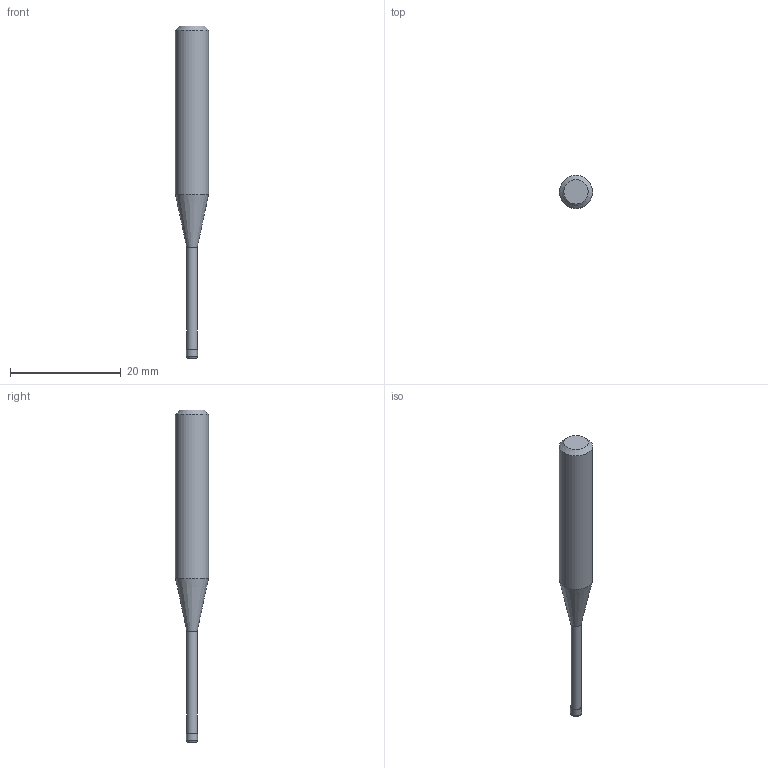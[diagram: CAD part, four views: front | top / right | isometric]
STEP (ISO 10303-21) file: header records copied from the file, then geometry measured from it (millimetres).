
FILE_DESCRIPTION((''),'2;1');
FILE_NAME('C:\Users\nsx150\AppData\Local\Temp\Mastercam 2021\17T8Q8S9EB\TEMP.step','2021-04-21T14:37:19',(''),(''),'STEP Write','Mastercam 2021 ... CNC Software, Inc.','');
FILE_SCHEMA(('AUTOMOTIVE_DESIGN'));
Length unit declared in the file: millimetre
Products named in the file (1): None
Bounding box: 6 x 6 x 60 mm (x, y, z)
Volume: 1039.9 mm3; surface area: 842.5 mm2
Topology: 2 solids, 2 shells, 10 faces, 14 edges, 8 vertices
Faces by surface type: plane 4, cylinder 3, cone 2, torus 1
Full cylindrical faces by diameter (mm): 1.91 x1, 2 x1, 6 x1
Entity records: 232 total; most frequent: DIRECTION 40, CARTESIAN_POINT 28, AXIS2_PLACEMENT_3D 20, ORIENTED_EDGE 16, EDGE_LOOP 16, STYLED_ITEM 13, ADVANCED_FACE 10, FACE_BOUND 10
